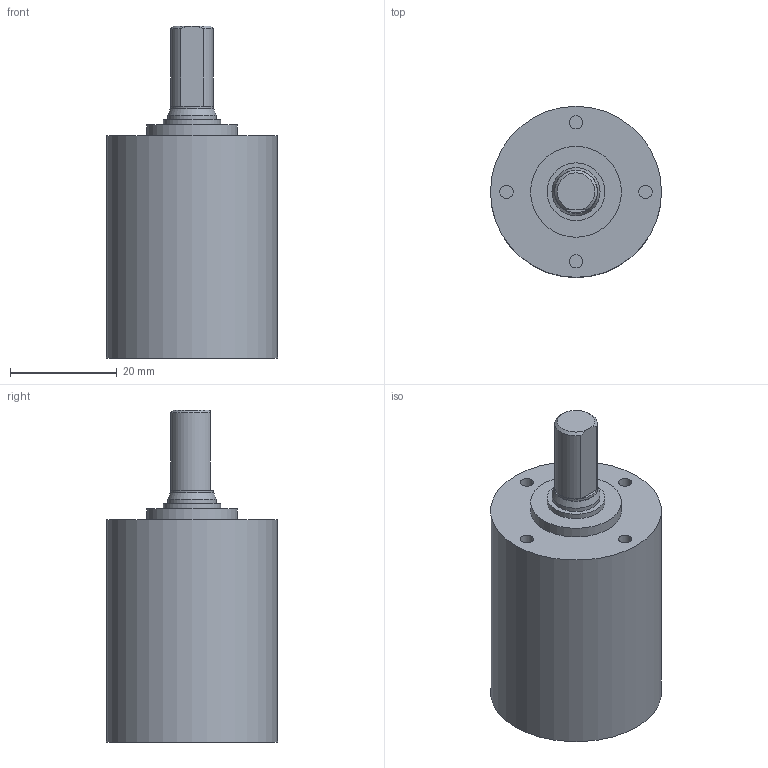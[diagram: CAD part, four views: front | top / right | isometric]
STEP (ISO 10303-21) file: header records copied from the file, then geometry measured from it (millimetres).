
FILE_DESCRIPTION(/* description */ (''),/* implementation_level */ '2;1');
FILE_NAME(/* name */ '32-3_2stage.stp',/* time_stamp */ '2021-02-23T06:56:35+01:00',/* author */ ('DR. FRITZ FAULHABER GmbH & Co. KG'),/* organization */ ('DR. FRITZ FAULHABER GmbH & Co. KG'),/* preprocessor_version */ 'ST-DEVELOPER v16.7',/* originating_system */ 'SIEMENS PLM Software NX 1919',/* authorisation */ '');
FILE_SCHEMA (('AUTOMOTIVE_DESIGN { 1 0 10303 214 3 1 1 1 }'));
Length unit declared in the file: millimetre
Products named in the file (1): 012019_A_5-TP-00213
Bounding box: 32 x 32 x 62.1 mm (x, y, z)
Volume: 26867.8 mm3; surface area: 7665.7 mm2
Topology: 1 solids, 1 shells, 37 faces, 71 edges, 51 vertices
Faces by surface type: plane 19, cylinder 16, cone 2
Full cylindrical faces by diameter (mm): 2.5 x4, 7.9 x1, 9 x1, 10.8 x1, 11.8 x1, 13.5 x1, 17 x1, 26.9 x1, 27.57 x1, 30 x1, 30.459 x1, 32 x1
Entity records: 904 total; most frequent: DIRECTION 172, CARTESIAN_POINT 136, ORIENTED_EDGE 86, AXIS2_PLACEMENT_3D 83, EDGE_LOOP 67, FACE_BOUND 56, CIRCLE 45, EDGE_CURVE 43
